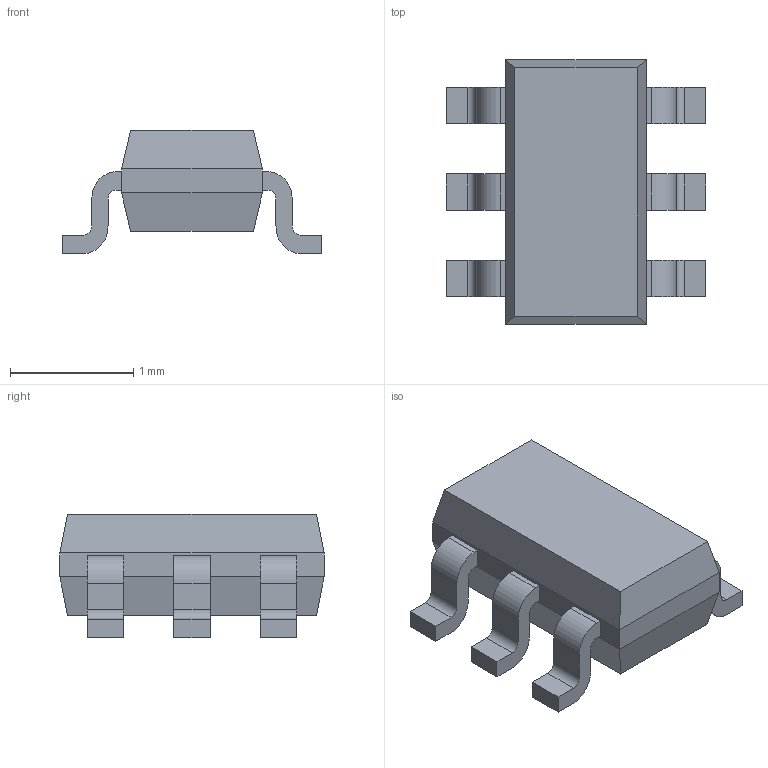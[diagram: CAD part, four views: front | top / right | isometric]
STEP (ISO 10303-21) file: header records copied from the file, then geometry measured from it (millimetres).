
FILE_DESCRIPTION(/* description */ ('STEP AP242 Edition 2','CAx-IF Rec.Pracs.---Representation and Presentation of Product Manufacturing Information (PMI)---4.0---2014-10-13','CAx-IF Rec.Pracs.---3D Tessellated Geometry---0.4---2014-09-14','2;1','CAx-IF Rec.Pracs.---User Defined Attributes---1.5---2016-08-15'),/* implementation_level */ '2;1');
FILE_NAME(/* name */ 'Drone Layout - Surface 407',/* time_stamp */ '2026-10-04T22:22:59Z',/* author */ (''),/* organization */ (''),/* preprocessor_version */ 'ST-DEVELOPER v20',/* originating_system */ 'ONSHAPE BY PTC INC, 1.221',/* authorisation */ ' ');
FILE_SCHEMA (('AP242_MANAGED_MODEL_BASED_3D_ENGINEERING_MIM_LF { 1 0 10303 442 3 1 4 }'));
Length unit declared in the file: metre
Products named in the file (1): SOT-23-6 v2:1__Body1
Bounding box: 2.11 x 2.15 x 1 mm (x, y, z)
Volume: 2.1 mm3; surface area: 14 mm2
Topology: 1 solids, 1 shells, 92 faces, 244 edges, 160 vertices
Faces by surface type: plane 68, cylinder 24
Entity records: 2993 total; most frequent: CARTESIAN_POINT 641, ORIENTED_EDGE 488, DIRECTION 430, EDGE_CURVE 244, VERTEX_POINT 160, LINE 148, VECTOR 148, AXIS2_PLACEMENT_3D 141
